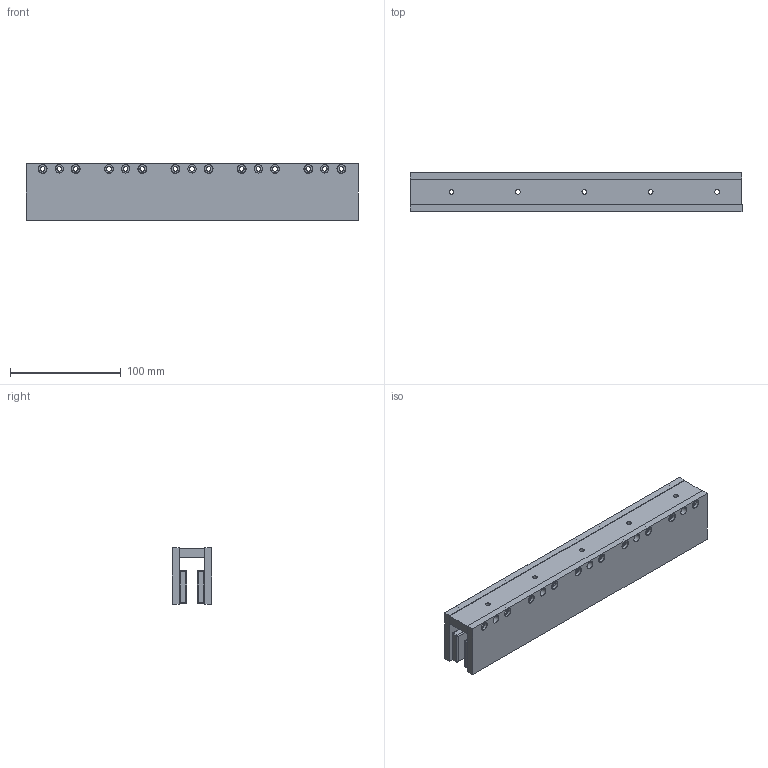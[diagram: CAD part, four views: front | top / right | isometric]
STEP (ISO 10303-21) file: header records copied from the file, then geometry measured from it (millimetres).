
FILE_DESCRIPTION (( 'STEP AP214' ), '1' );
FILE_NAME ('JKA3-300¶¨×Ó.STEP', '2025-09-05T12:42:32', ( '' ), ( '' ), 'SwSTEP 2.0', 'SolidWorks 2016', '' );
FILE_SCHEMA (( 'AUTOMOTIVE_DESIGN' ));
Length unit declared in the file: millimetre
Products named in the file (1): JKA3-300隅赽
Bounding box: 300 x 35.5 x 50.8 mm (x, y, z)
Volume: 336008.2 mm3; surface area: 137356.5 mm2
Topology: 23 solids, 23 shells, 768 faces, 1716 edges, 854 vertices
Faces by surface type: cylinder 380, sphere 160, plane 158, cone 70
Entity records: 28590 total; most frequent: DIRECTION 3924, CARTESIAN_POINT 3179, ORIENTED_EDGE 3112, AXIS2_PLACEMENT_3D 1599, EDGE_CURVE 1556, EDGE_LOOP 888, VERTEX_POINT 854, CIRCLE 830
